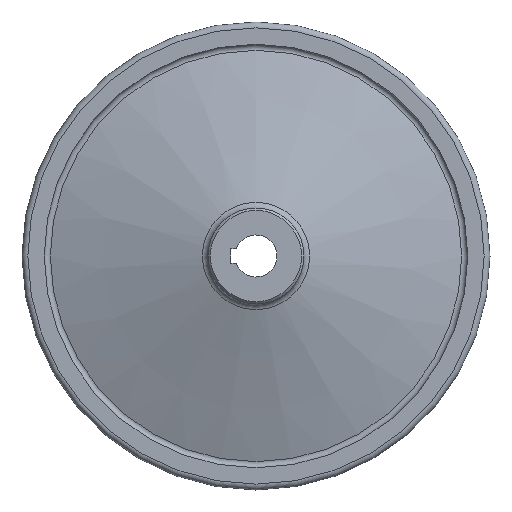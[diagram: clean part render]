
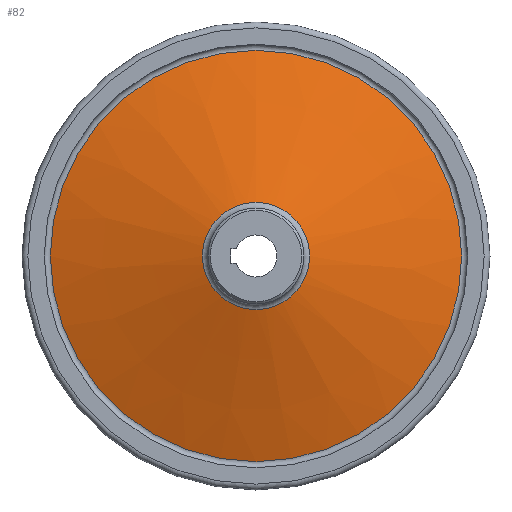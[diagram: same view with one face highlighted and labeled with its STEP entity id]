
A CAD part, left-side view. The second image highlights one B-rep face of the part: STEP entity #82.
In plain terms, the highlighted conical face has half-angle 72 degrees and reference radius 22.918 mm.
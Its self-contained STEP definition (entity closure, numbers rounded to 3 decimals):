
#82 = ADVANCED_FACE( '', ( #120, #121 ), #122, .T. );
#120 = FACE_OUTER_BOUND( '', #188, .T. );
#121 = FACE_BOUND( '', #189, .T. );
#122 = CONICAL_SURFACE( '', #190, 22.918, 1.257 );
#188 = EDGE_LOOP( '', ( #279 ) );
#189 = EDGE_LOOP( '', ( #280 ) );
#190 = AXIS2_PLACEMENT_3D( '', #281, #282, #283 );
#279 = ORIENTED_EDGE( '', *, *, #386, .T. );
#280 = ORIENTED_EDGE( '', *, *, #385, .F. );
#281 = CARTESIAN_POINT( '', ( 12.786, 0., 0. ) );
#282 = DIRECTION( '', ( 1., 0., 0. ) );
#283 = DIRECTION( '', ( 0., 0., -1. ) );
#385 = EDGE_CURVE( '', #429, #429, #430, .T. );
#386 = EDGE_CURVE( '', #431, #431, #432, .T. );
#429 = VERTEX_POINT( '', #495 );
#430 = CIRCLE( '', #496, 22.918 );
#431 = VERTEX_POINT( '', #497 );
#432 = CIRCLE( '', #498, 87.882 );
#495 = CARTESIAN_POINT( '', ( 12.786, 0., 22.918 ) );
#496 = AXIS2_PLACEMENT_3D( '', #556, #557, #558 );
#497 = CARTESIAN_POINT( '', ( 33.894, 0., 87.882 ) );
#498 = AXIS2_PLACEMENT_3D( '', #559, #560, #561 );
#556 = CARTESIAN_POINT( '', ( 12.786, 0., 0. ) );
#557 = DIRECTION( '', ( -1., 0., 0. ) );
#558 = DIRECTION( '', ( 0., 0., 1. ) );
#559 = CARTESIAN_POINT( '', ( 33.894, 0., 0. ) );
#560 = DIRECTION( '', ( -1., 0., 0. ) );
#561 = DIRECTION( '', ( 0., 0., 1. ) );
